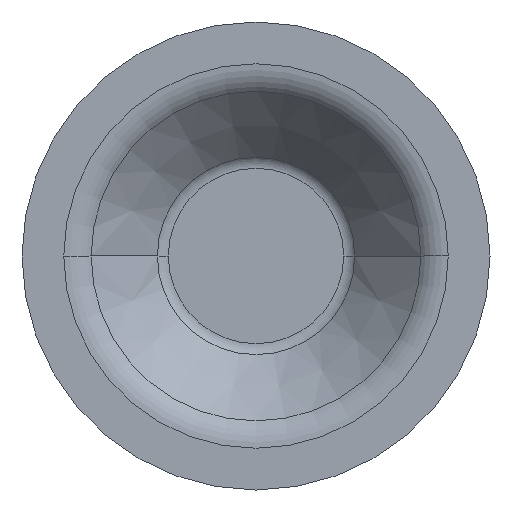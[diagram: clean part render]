
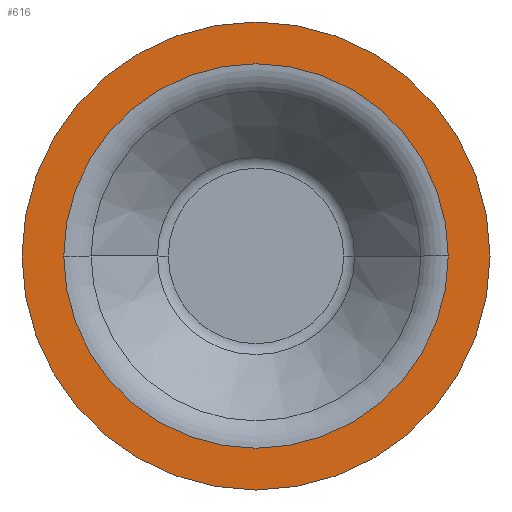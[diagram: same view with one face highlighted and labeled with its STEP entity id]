
A CAD part, front view. The second image highlights one B-rep face of the part: STEP entity #616.
In plain terms, the highlighted planar face has unit normal (0, -1, 0).
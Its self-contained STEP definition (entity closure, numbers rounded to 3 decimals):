
#87 = CARTESIAN_POINT ( 'NONE',  ( 0., -15., 0. ) ) ;
#167 = ORIENTED_EDGE ( 'NONE', *, *, #1054, .F. ) ;
#225 = DIRECTION ( 'NONE',  ( 1., 0., 0. ) ) ;
#247 = VERTEX_POINT ( 'NONE', #1633 ) ;
#292 = DIRECTION ( 'NONE',  ( -1., 0., 0. ) ) ;
#353 = PLANE ( 'NONE',  #1498 ) ;
#385 = DIRECTION ( 'NONE',  ( 1., 0., 0. ) ) ;
#483 = DIRECTION ( 'NONE',  ( -1., 0., 0. ) ) ;
#516 = ORIENTED_EDGE ( 'NONE', *, *, #1573, .F. ) ;
#536 = VERTEX_POINT ( 'NONE', #918 ) ;
#566 = DIRECTION ( 'NONE',  ( 0., -1., 0. ) ) ;
#582 = CIRCLE ( 'NONE', #1290, 25.88 ) ;
#616 = ADVANCED_FACE ( 'NONE', ( #981, #1467 ), #353, .T. ) ;
#636 = AXIS2_PLACEMENT_3D ( 'NONE', #1574, #566, #292 ) ;
#710 = CARTESIAN_POINT ( 'NONE',  ( -31.5, -15., 0. ) ) ;
#718 = DIRECTION ( 'NONE',  ( 0., -1., 0. ) ) ;
#762 = CIRCLE ( 'NONE', #1296, 31.5 ) ;
#861 = CARTESIAN_POINT ( 'NONE',  ( 31.5, -15., 0. ) ) ;
#867 = AXIS2_PLACEMENT_3D ( 'NONE', #1536, #1009, #385 ) ;
#905 = EDGE_LOOP ( 'NONE', ( #1459, #938 ) ) ;
#918 = CARTESIAN_POINT ( 'NONE',  ( -25.88, -15., 0. ) ) ;
#938 = ORIENTED_EDGE ( 'NONE', *, *, #1225, .T. ) ;
#952 = EDGE_CURVE ( 'NONE', #1410, #1592, #762, .T. ) ;
#981 = FACE_BOUND ( 'NONE', #1119, .T. ) ;
#996 = CIRCLE ( 'NONE', #636, 25.88 ) ;
#1007 = DIRECTION ( 'NONE',  ( 0., -1., 0. ) ) ;
#1009 = DIRECTION ( 'NONE',  ( 0., -1., 0. ) ) ;
#1054 = EDGE_CURVE ( 'NONE', #247, #536, #996, .T. ) ;
#1098 = CIRCLE ( 'NONE', #867, 31.5 ) ;
#1119 = EDGE_LOOP ( 'NONE', ( #516, #167 ) ) ;
#1124 = DIRECTION ( 'NONE',  ( 1., 0., 0. ) ) ;
#1225 = EDGE_CURVE ( 'NONE', #1592, #1410, #1098, .T. ) ;
#1290 = AXIS2_PLACEMENT_3D ( 'NONE', #87, #1604, #483 ) ;
#1296 = AXIS2_PLACEMENT_3D ( 'NONE', #1397, #1007, #1124 ) ;
#1334 = CARTESIAN_POINT ( 'NONE',  ( 31.5, -15., 0. ) ) ;
#1397 = CARTESIAN_POINT ( 'NONE',  ( 0., -15., 0. ) ) ;
#1410 = VERTEX_POINT ( 'NONE', #1334 ) ;
#1459 = ORIENTED_EDGE ( 'NONE', *, *, #952, .T. ) ;
#1467 = FACE_OUTER_BOUND ( 'NONE', #905, .T. ) ;
#1498 = AXIS2_PLACEMENT_3D ( 'NONE', #861, #718, #225 ) ;
#1536 = CARTESIAN_POINT ( 'NONE',  ( 0., -15., 0. ) ) ;
#1573 = EDGE_CURVE ( 'NONE', #536, #247, #582, .T. ) ;
#1574 = CARTESIAN_POINT ( 'NONE',  ( 0., -15., 0. ) ) ;
#1592 = VERTEX_POINT ( 'NONE', #710 ) ;
#1604 = DIRECTION ( 'NONE',  ( 0., -1., 0. ) ) ;
#1633 = CARTESIAN_POINT ( 'NONE',  ( 25.88, -15., 0. ) ) ;
